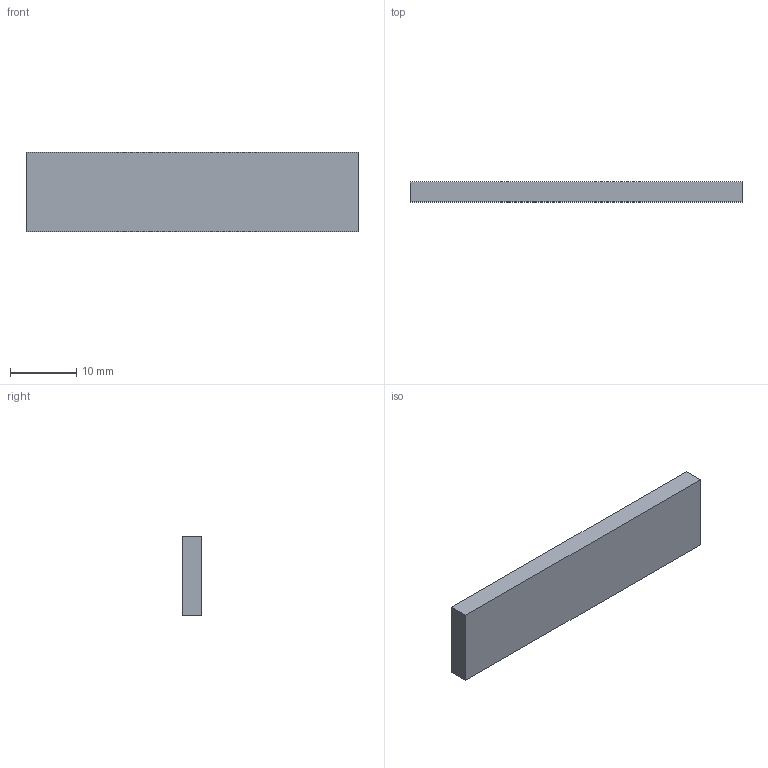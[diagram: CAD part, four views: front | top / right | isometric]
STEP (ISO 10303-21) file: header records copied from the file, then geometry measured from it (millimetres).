
FILE_DESCRIPTION(('STEP AP214'),'1');
FILE_NAME('R03S-.stp','2017-07-25T06:57:06',(' '),(' '),'Spatial InterOp 3D',' ',' ');
FILE_SCHEMA(('automotive_design'));
Length unit declared in the file: millimetre
Products named in the file (1): R03S-
Bounding box: 50 x 3 x 12 mm (x, y, z)
Volume: 1800 mm3; surface area: 1572 mm2
Topology: 1 solids, 1 shells, 6 faces, 12 edges, 8 vertices
Faces by surface type: plane 6
Entity records: 220 total; most frequent: CARTESIAN_POINT 27, DIRECTION 26, ORIENTED_EDGE 24, EDGE_CURVE 12, LINE 12, VECTOR 12, VERTEX_POINT 8, AXIS2_PLACEMENT_3D 7
